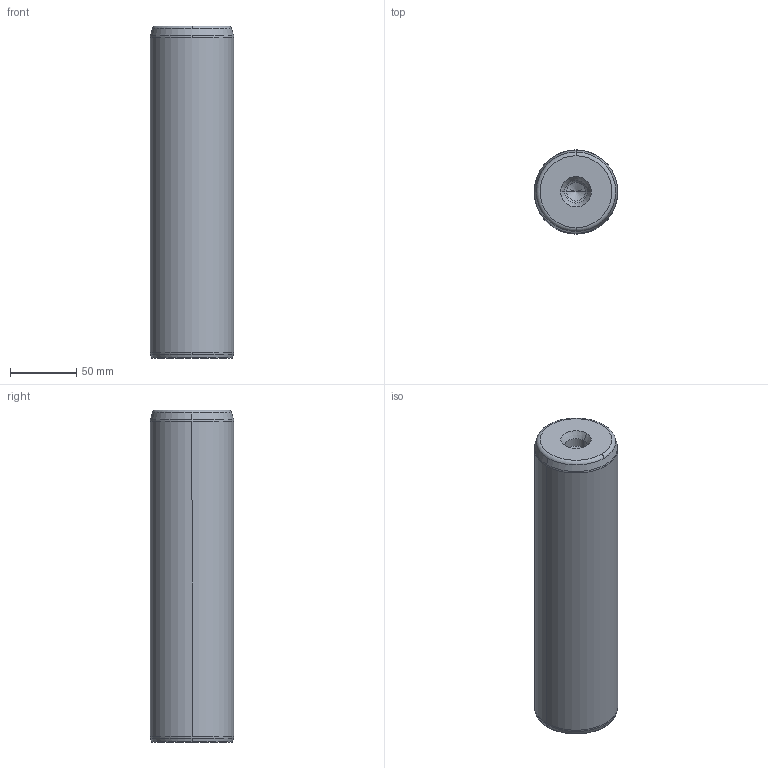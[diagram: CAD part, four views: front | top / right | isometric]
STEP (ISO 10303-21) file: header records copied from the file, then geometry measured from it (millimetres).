
FILE_DESCRIPTION((''),'2;1');
FILE_NAME('P10_063_250.stp','2008-12-23T16:16:31',(''),(''),'Mechanical Desktop 2009','Mechanical Desktop 2009',', , ');
FILE_SCHEMA(('CONFIG_CONTROL_DESIGN'));
Length unit declared in the file: millimetre
Products named in the file (5): Product; ProductAA; blmdl1; ProductA; blmdl1A
Assembly tree (2 placements, depth 3):
  Product
    ProductAA
      blmdl1
  ProductA
  blmdl1A
Bounding box: 63 x 63 x 250 mm (x, y, z)
Volume: 768607.5 mm3; surface area: 56983.5 mm2
Topology: 1 solids, 1 shells, 26 faces, 66 edges, 41 vertices
Faces by surface type: cone 10, torus 8, cylinder 6, plane 2
Entity records: 1012 total; most frequent: DIRECTION 170, CARTESIAN_POINT 134, ORIENTED_EDGE 128, AXIS2_PLACEMENT_3D 77, EDGE_CURVE 64, CIRCLE 48, VERTEX_POINT 41, EDGE_LOOP 27
